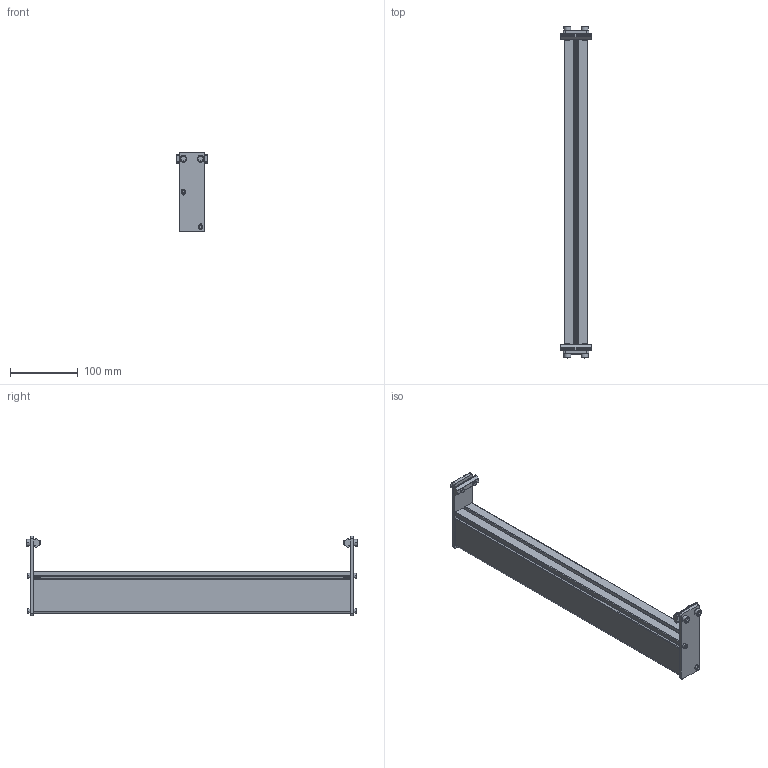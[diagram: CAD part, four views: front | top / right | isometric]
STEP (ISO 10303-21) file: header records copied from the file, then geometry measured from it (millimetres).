
FILE_DESCRIPTION((''),'2;1');
FILE_NAME('350974-18_ASM','2023-03-22T',('jenni.wallner'),(''),'PRO/ENGINEER BY PARAMETRIC TECHNOLOGY CORPORATION, 2012420','PRO/ENGINEER BY PARAMETRIC TECHNOLOGY CORPORATION, 2012420','');
FILE_SCHEMA(('CONFIG_CONTROL_DESIGN'));
Length unit declared in the file: inch
Products named in the file (6): 350979-01843; 350978; 200830M; 920616M; 920416M; 350974-18_ASM
Assembly tree (13 placements, depth 2):
  350974-18_ASM
    350979-01843
    350978  x2
    200830M  x2
    920616M  x4
    920416M  x4
Bounding box: 44.45 x 489.22 x 116.98 mm (x, y, z)
Volume: 419865.2 mm3; surface area: 267464.1 mm2
Topology: 13 solids, 17 shells, 342 faces, 868 edges, 568 vertices
Faces by surface type: plane 168, cylinder 142, cone 32
Entity records: 5992 total; most frequent: DIRECTION 1074, CARTESIAN_POINT 1021, ORIENTED_EDGE 972, EDGE_CURVE 490, AXIS2_PLACEMENT_3D 385, VERTEX_POINT 324, VECTOR 304, LINE 304
